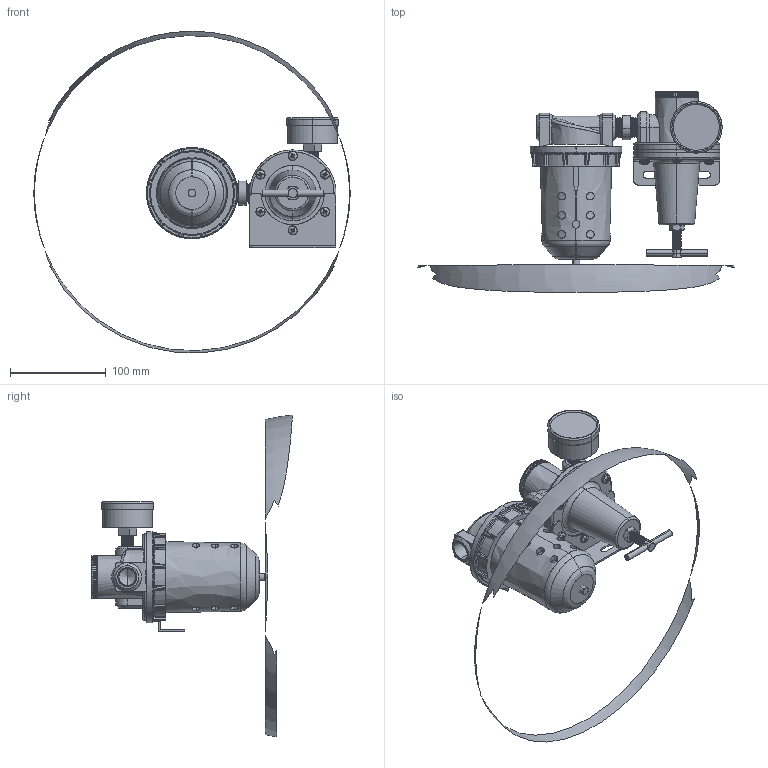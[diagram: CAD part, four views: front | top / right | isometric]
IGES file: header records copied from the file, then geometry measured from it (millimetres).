
Start section: SolidWorks IGES file using analytic representation for surfaces
Global section: file name: D:\Custom\3D繪製\FRL\FR系列\U628#-04#YB#.IGS; native system: SolidWorks 2014; preprocessor: SolidWorks 2014; author: Chieh_Lu; date: 160115.012759; units: millimetre
Bounding box: 331.28 x 210.54 x 336.8 mm (x, y, z)
Surface area: 177678.1 mm2 (no closed solid volume)
Topology: 0 solids, 0 shells, 1197 faces, 15473 edges, 15448 vertices
Faces by surface type: revolution 627, bspline 570
